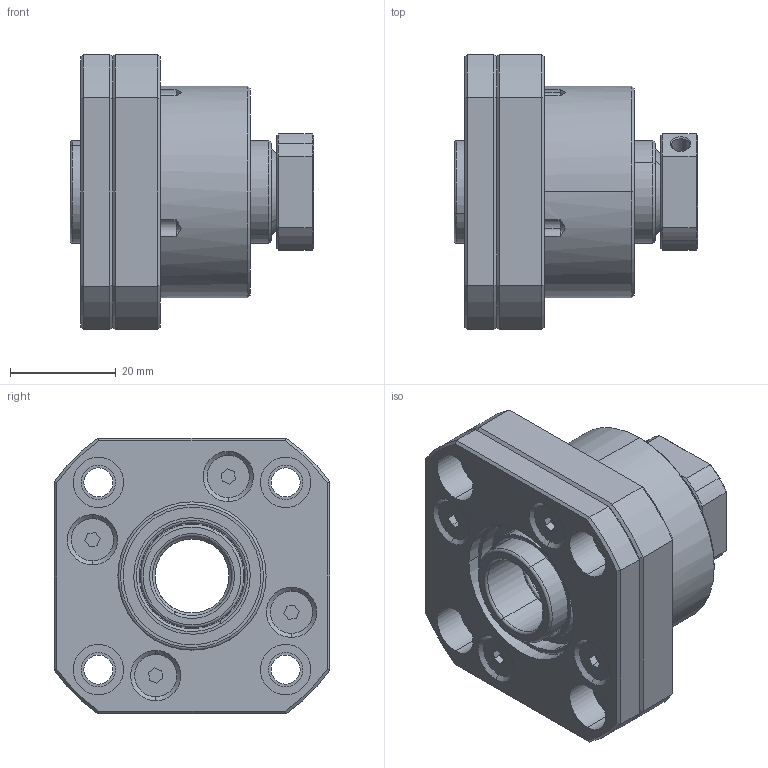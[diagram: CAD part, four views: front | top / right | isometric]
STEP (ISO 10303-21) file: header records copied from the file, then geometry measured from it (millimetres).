
FILE_DESCRIPTION (( 'STEP AP203' ), '1' );
FILE_NAME ('FK15²Õ¦XB.STEP', '2021-09-29T01:26:05', ( '' ), ( '' ), 'SwSTEP 2.0', 'SolidWorks 2018', '' );
FILE_SCHEMA (( 'CONFIG_CONTROL_DESIGN' ));
Length unit declared in the file: millimetre
Products named in the file (1): FK15組合B
Bounding box: 46 x 52 x 52 mm (x, y, z)
Surface area: 19422.7 mm2 (no closed solid volume)
Topology: 0 solids, 16 shells, 224 faces, 581 edges, 375 vertices
Faces by surface type: plane 87, cylinder 71, cone 48, torus 14, bspline 4
Entity records: 7406 total; most frequent: CARTESIAN_POINT 1801, DIRECTION 1220, ORIENTED_EDGE 1044, EDGE_CURVE 581, AXIS2_PLACEMENT_3D 492, VERTEX_POINT 375, CIRCLE 271, EDGE_LOOP 266
